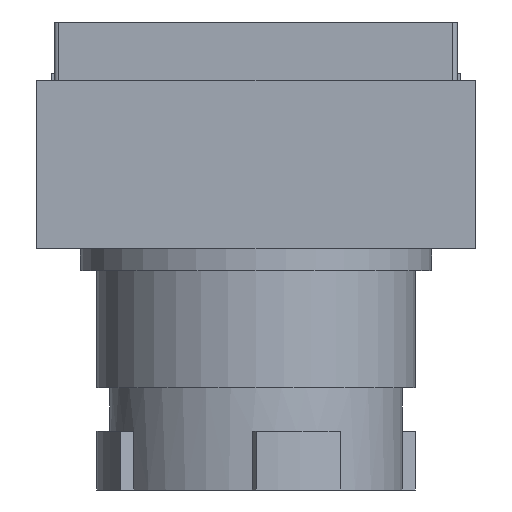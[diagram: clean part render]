
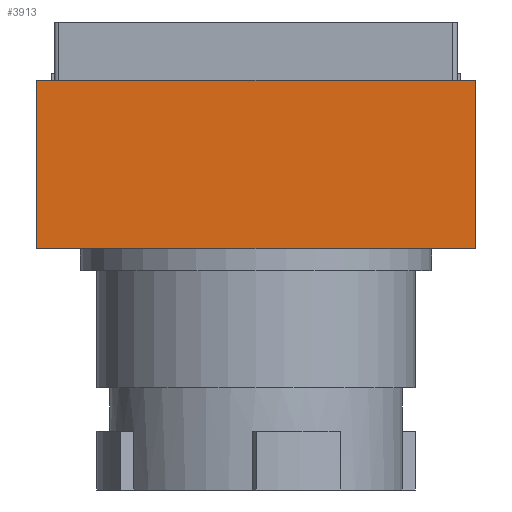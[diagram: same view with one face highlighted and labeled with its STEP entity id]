
A CAD part, front view. The second image highlights one B-rep face of the part: STEP entity #3913.
In plain terms, the highlighted planar face has unit normal (0, -1, 0).
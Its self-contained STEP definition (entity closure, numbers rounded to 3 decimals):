
#10 = LINE ( 'NONE', #3096, #2224 ) ;
#175 = VERTEX_POINT ( 'NONE', #3923 ) ;
#351 = EDGE_CURVE ( 'NONE', #3458, #175, #5434, .T. ) ;
#621 = DIRECTION ( 'NONE',  ( 0., 0., -1. ) ) ;
#770 = CARTESIAN_POINT ( 'NONE',  ( 15., -27.5, 0. ) ) ;
#892 = VERTEX_POINT ( 'NONE', #1142 ) ;
#950 = DIRECTION ( 'NONE',  ( 0., 0., -1. ) ) ;
#1058 = EDGE_CURVE ( 'NONE', #892, #3553, #5181, .T. ) ;
#1142 = CARTESIAN_POINT ( 'NONE',  ( -15., -27.5, 0. ) ) ;
#1352 = VECTOR ( 'NONE', #950, 1000. ) ;
#1853 = CARTESIAN_POINT ( 'NONE',  ( -15., -27.5, 11.5 ) ) ;
#1980 = ORIENTED_EDGE ( 'NONE', *, *, #351, .F. ) ;
#2223 = DIRECTION ( 'NONE',  ( 1., 0., 0. ) ) ;
#2224 = VECTOR ( 'NONE', #621, 1000. ) ;
#2240 = DIRECTION ( 'NONE',  ( 1., 0., 0. ) ) ;
#2256 = PLANE ( 'NONE',  #2870 ) ;
#2274 = DIRECTION ( 'NONE',  ( 0., 0., 1. ) ) ;
#2286 = ORIENTED_EDGE ( 'NONE', *, *, #2685, .F. ) ;
#2342 = CARTESIAN_POINT ( 'NONE',  ( -15., -27.5, 11.5 ) ) ;
#2685 = EDGE_CURVE ( 'NONE', #175, #3553, #10, .T. ) ;
#2870 = AXIS2_PLACEMENT_3D ( 'NONE', #1853, #4810, #2274 ) ;
#2899 = VECTOR ( 'NONE', #2223, 1000. ) ;
#3010 = CARTESIAN_POINT ( 'NONE',  ( -15., -27.5, 11.5 ) ) ;
#3057 = ORIENTED_EDGE ( 'NONE', *, *, #1058, .T. ) ;
#3096 = CARTESIAN_POINT ( 'NONE',  ( 15., -27.5, 11.5 ) ) ;
#3172 = VECTOR ( 'NONE', #2240, 1000. ) ;
#3458 = VERTEX_POINT ( 'NONE', #2342 ) ;
#3553 = VERTEX_POINT ( 'NONE', #770 ) ;
#3913 = ADVANCED_FACE ( 'NONE', ( #5433 ), #2256, .F. ) ;
#3923 = CARTESIAN_POINT ( 'NONE',  ( 15., -27.5, 11.5 ) ) ;
#4149 = ORIENTED_EDGE ( 'NONE', *, *, #4281, .T. ) ;
#4281 = EDGE_CURVE ( 'NONE', #3458, #892, #4710, .T. ) ;
#4680 = CARTESIAN_POINT ( 'NONE',  ( -15., -27.5, 0. ) ) ;
#4710 = LINE ( 'NONE', #3010, #1352 ) ;
#4810 = DIRECTION ( 'NONE',  ( 0., 1., 0. ) ) ;
#5181 = LINE ( 'NONE', #4680, #2899 ) ;
#5362 = CARTESIAN_POINT ( 'NONE',  ( -15., -27.5, 11.5 ) ) ;
#5363 = EDGE_LOOP ( 'NONE', ( #3057, #2286, #1980, #4149 ) ) ;
#5433 = FACE_OUTER_BOUND ( 'NONE', #5363, .T. ) ;
#5434 = LINE ( 'NONE', #5362, #3172 ) ;
